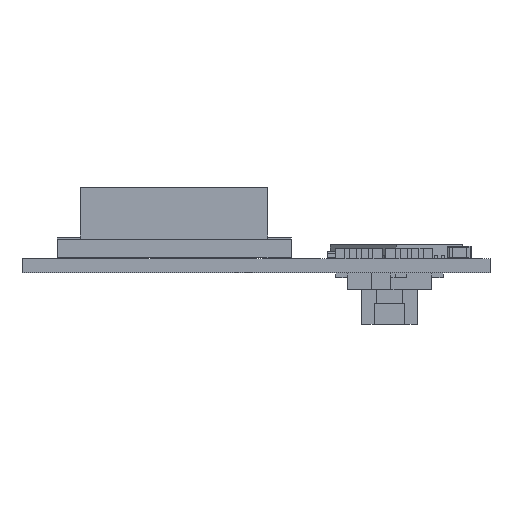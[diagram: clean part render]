
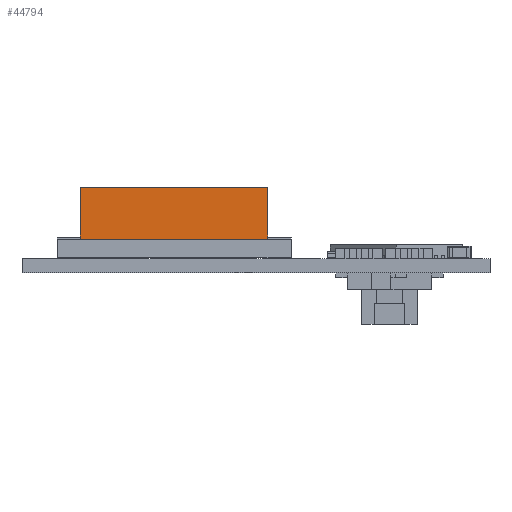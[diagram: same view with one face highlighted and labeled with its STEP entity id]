
A CAD part, left-side view. The second image highlights one B-rep face of the part: STEP entity #44794.
In plain terms, the highlighted planar face has unit normal (-1, 0, 0).
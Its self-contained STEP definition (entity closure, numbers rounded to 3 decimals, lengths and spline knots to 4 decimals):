
#43403 = PLANE('',#43404);
#43404 = AXIS2_PLACEMENT_3D('',#43405,#43406,#43407);
#43405 = CARTESIAN_POINT('',(12.85,27.5,3.65));
#43406 = DIRECTION('',(0.,0.,1.));
#43407 = DIRECTION('',(1.,0.,-0.));
#43808 = EDGE_CURVE('',#43809,#43811,#43813,.T.);
#43809 = VERTEX_POINT('',#43810);
#43810 = CARTESIAN_POINT('',(12.85,27.5,3.65));
#43811 = VERTEX_POINT('',#43812);
#43812 = CARTESIAN_POINT('',(12.85,19.5,3.65));
#43813 = SURFACE_CURVE('',#43814,(#43818,#43825),.PCURVE_S1.);
#43814 = LINE('',#43815,#43816);
#43815 = CARTESIAN_POINT('',(12.85,27.5,3.65));
#43816 = VECTOR('',#43817,1.);
#43817 = DIRECTION('',(0.,-1.,0.));
#43818 = PCURVE('',#43403,#43819);
#43819 = DEFINITIONAL_REPRESENTATION('',(#43820),#43824);
#43820 = LINE('',#43821,#43822);
#43821 = CARTESIAN_POINT('',(0.,0.));
#43822 = VECTOR('',#43823,1.);
#43823 = DIRECTION('',(0.,-1.));
#43824 = ( GEOMETRIC_REPRESENTATION_CONTEXT(2) 
PARAMETRIC_REPRESENTATION_CONTEXT() REPRESENTATION_CONTEXT('2D SPACE',''
  ) );
#43825 = PCURVE('',#43826,#43831);
#43826 = PLANE('',#43827);
#43827 = AXIS2_PLACEMENT_3D('',#43828,#43829,#43830);
#43828 = CARTESIAN_POINT('',(12.85,27.5,1.45));
#43829 = DIRECTION('',(-1.,0.,0.));
#43830 = DIRECTION('',(0.,-1.,0.));
#43831 = DEFINITIONAL_REPRESENTATION('',(#43832),#43836);
#43832 = LINE('',#43833,#43834);
#43833 = CARTESIAN_POINT('',(0.,2.2));
#43834 = VECTOR('',#43835,1.);
#43835 = DIRECTION('',(1.,0.));
#43836 = ( GEOMETRIC_REPRESENTATION_CONTEXT(2) 
PARAMETRIC_REPRESENTATION_CONTEXT() REPRESENTATION_CONTEXT('2D SPACE',''
  ) );
#43854 = PLANE('',#43855);
#43855 = AXIS2_PLACEMENT_3D('',#43856,#43857,#43858);
#43856 = CARTESIAN_POINT('',(12.85,19.5,1.45));
#43857 = DIRECTION('',(0.,-1.,0.));
#43858 = DIRECTION('',(1.,0.,0.));
#43908 = PLANE('',#43909);
#43909 = AXIS2_PLACEMENT_3D('',#43910,#43911,#43912);
#43910 = CARTESIAN_POINT('',(12.85,27.5,1.45));
#43911 = DIRECTION('',(0.,-1.,0.));
#43912 = DIRECTION('',(1.,0.,0.));
#44794 = ADVANCED_FACE('',(#44795),#43826,.T.);
#44795 = FACE_BOUND('',#44796,.T.);
#44796 = EDGE_LOOP('',(#44797,#44798,#44821,#44849));
#44797 = ORIENTED_EDGE('',*,*,#43808,.F.);
#44798 = ORIENTED_EDGE('',*,*,#44799,.F.);
#44799 = EDGE_CURVE('',#44800,#43809,#44802,.T.);
#44800 = VERTEX_POINT('',#44801);
#44801 = CARTESIAN_POINT('',(12.85,27.5,1.45));
#44802 = SURFACE_CURVE('',#44803,(#44807,#44814),.PCURVE_S1.);
#44803 = LINE('',#44804,#44805);
#44804 = CARTESIAN_POINT('',(12.85,27.5,1.45));
#44805 = VECTOR('',#44806,1.);
#44806 = DIRECTION('',(0.,0.,1.));
#44807 = PCURVE('',#43826,#44808);
#44808 = DEFINITIONAL_REPRESENTATION('',(#44809),#44813);
#44809 = LINE('',#44810,#44811);
#44810 = CARTESIAN_POINT('',(0.,0.));
#44811 = VECTOR('',#44812,1.);
#44812 = DIRECTION('',(0.,1.));
#44813 = ( GEOMETRIC_REPRESENTATION_CONTEXT(2) 
PARAMETRIC_REPRESENTATION_CONTEXT() REPRESENTATION_CONTEXT('2D SPACE',''
  ) );
#44814 = PCURVE('',#43908,#44815);
#44815 = DEFINITIONAL_REPRESENTATION('',(#44816),#44820);
#44816 = LINE('',#44817,#44818);
#44817 = CARTESIAN_POINT('',(0.,0.));
#44818 = VECTOR('',#44819,1.);
#44819 = DIRECTION('',(0.,1.));
#44820 = ( GEOMETRIC_REPRESENTATION_CONTEXT(2) 
PARAMETRIC_REPRESENTATION_CONTEXT() REPRESENTATION_CONTEXT('2D SPACE',''
  ) );
#44821 = ORIENTED_EDGE('',*,*,#44822,.T.);
#44822 = EDGE_CURVE('',#44800,#44823,#44825,.T.);
#44823 = VERTEX_POINT('',#44824);
#44824 = CARTESIAN_POINT('',(12.85,19.5,1.45));
#44825 = SURFACE_CURVE('',#44826,(#44830,#44837),.PCURVE_S1.);
#44826 = LINE('',#44827,#44828);
#44827 = CARTESIAN_POINT('',(12.85,27.5,1.45));
#44828 = VECTOR('',#44829,1.);
#44829 = DIRECTION('',(0.,-1.,0.));
#44830 = PCURVE('',#43826,#44831);
#44831 = DEFINITIONAL_REPRESENTATION('',(#44832),#44836);
#44832 = LINE('',#44833,#44834);
#44833 = CARTESIAN_POINT('',(0.,0.));
#44834 = VECTOR('',#44835,1.);
#44835 = DIRECTION('',(1.,0.));
#44836 = ( GEOMETRIC_REPRESENTATION_CONTEXT(2) 
PARAMETRIC_REPRESENTATION_CONTEXT() REPRESENTATION_CONTEXT('2D SPACE',''
  ) );
#44837 = PCURVE('',#44838,#44843);
#44838 = PLANE('',#44839);
#44839 = AXIS2_PLACEMENT_3D('',#44840,#44841,#44842);
#44840 = CARTESIAN_POINT('',(12.85,27.5,1.45));
#44841 = DIRECTION('',(0.,0.,1.));
#44842 = DIRECTION('',(1.,0.,-0.));
#44843 = DEFINITIONAL_REPRESENTATION('',(#44844),#44848);
#44844 = LINE('',#44845,#44846);
#44845 = CARTESIAN_POINT('',(0.,0.));
#44846 = VECTOR('',#44847,1.);
#44847 = DIRECTION('',(0.,-1.));
#44848 = ( GEOMETRIC_REPRESENTATION_CONTEXT(2) 
PARAMETRIC_REPRESENTATION_CONTEXT() REPRESENTATION_CONTEXT('2D SPACE',''
  ) );
#44849 = ORIENTED_EDGE('',*,*,#44850,.T.);
#44850 = EDGE_CURVE('',#44823,#43811,#44851,.T.);
#44851 = SURFACE_CURVE('',#44852,(#44856,#44863),.PCURVE_S1.);
#44852 = LINE('',#44853,#44854);
#44853 = CARTESIAN_POINT('',(12.85,19.5,1.45));
#44854 = VECTOR('',#44855,1.);
#44855 = DIRECTION('',(0.,0.,1.));
#44856 = PCURVE('',#43826,#44857);
#44857 = DEFINITIONAL_REPRESENTATION('',(#44858),#44862);
#44858 = LINE('',#44859,#44860);
#44859 = CARTESIAN_POINT('',(8.,0.));
#44860 = VECTOR('',#44861,1.);
#44861 = DIRECTION('',(0.,1.));
#44862 = ( GEOMETRIC_REPRESENTATION_CONTEXT(2) 
PARAMETRIC_REPRESENTATION_CONTEXT() REPRESENTATION_CONTEXT('2D SPACE',''
  ) );
#44863 = PCURVE('',#43854,#44864);
#44864 = DEFINITIONAL_REPRESENTATION('',(#44865),#44869);
#44865 = LINE('',#44866,#44867);
#44866 = CARTESIAN_POINT('',(0.,0.));
#44867 = VECTOR('',#44868,1.);
#44868 = DIRECTION('',(0.,1.));
#44869 = ( GEOMETRIC_REPRESENTATION_CONTEXT(2) 
PARAMETRIC_REPRESENTATION_CONTEXT() REPRESENTATION_CONTEXT('2D SPACE',''
  ) );
